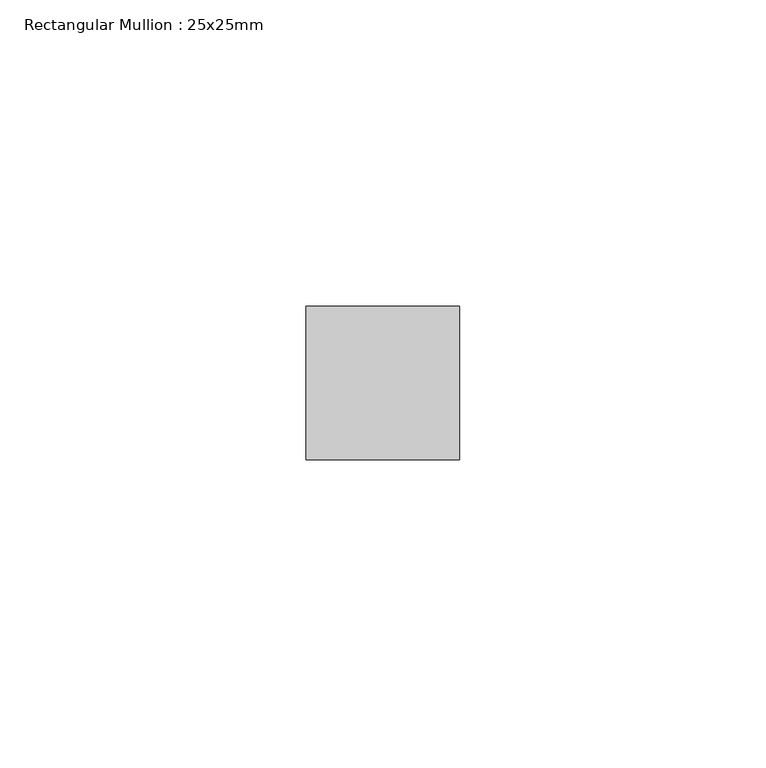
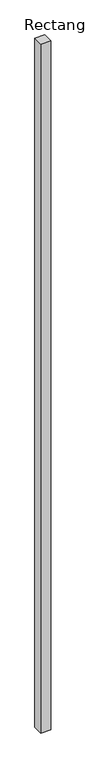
"""IFC4 building model written with IfcOpenShell, lengths in millimetres: member geometry, Rectangular Mullion : 25x25mm."""

from ifc_helpers import new_model, si_unit, frame, origin, place, context, project, spatial, polyline, outline, extrude, source, transform, mapped, element, save


def rectangular_mullion_25x25mm_6c4dc9a9(model_context):
    return source(origin(), model_context, "Body", "SweptSolid", [
        extrude(outline(polyline([(0.0, 24.5), (0.0, -0.5), (-25.0, -0.5), (-25.0, 24.5), (0.0, 24.5)])), frame((0.0, 0.0, -1810.0), z_axis=(0.0, 0.0, 1.0), x_axis=(1.0, 0.0, 0.0)), (0.0, 0.0, 1.0), 1810.0),
    ])


if __name__ == "__main__":
    model = new_model("IFC4")
    model_context = context("Model", 3, world=origin())
    ifc_project = project(units=[si_unit("LENGTHUNIT", "METRE", prefix="MILLI")], contexts=[model_context])
    site = spatial("IfcSite", under=ifc_project)
    building = spatial("IfcBuilding", under=site)
    placement = place(None, origin())
    rectangular_mullion_25x25mm_shape = rectangular_mullion_25x25mm_6c4dc9a9(model_context)
    element("IfcMember", 1, ObjectType="Rectangular Mullion : 25x25mm", at=placement, inside=building, context=model_context, shape_type="MappedRepresentation", body=[
        mapped(rectangular_mullion_25x25mm_shape, transform((0.0, 0.0, 0.0), x_axis=(1.0, 0.0, 0.0), y_axis=(0.0, 1.0, 0.0), z_axis=(0.0, 0.0, 1.0))),
    ])
    save(model, "model.ifc")
